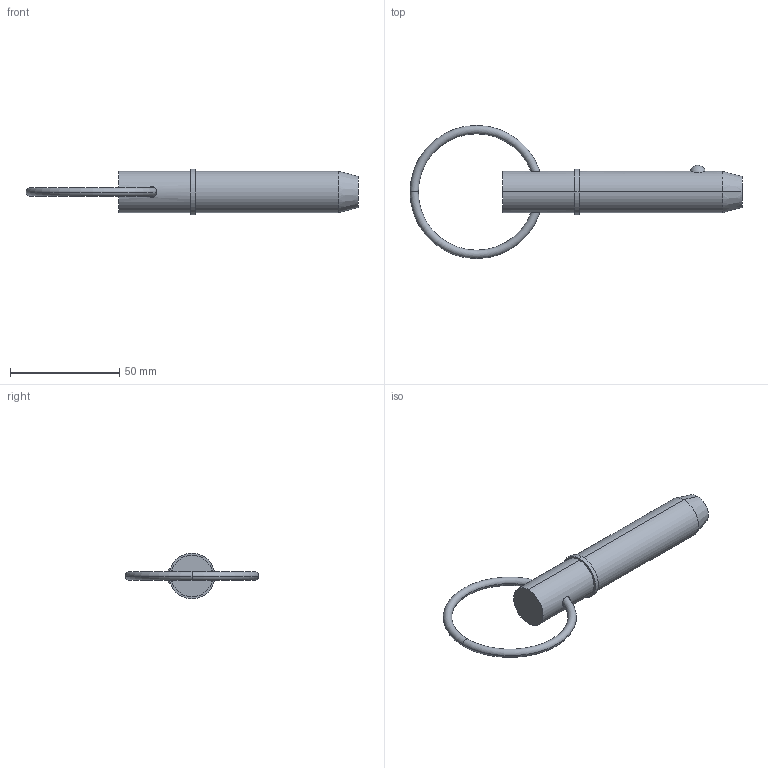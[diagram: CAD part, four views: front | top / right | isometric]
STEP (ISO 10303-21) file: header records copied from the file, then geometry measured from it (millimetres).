
FILE_DESCRIPTION (( 'STEP AP203' ), '1' );
FILE_NAME ('33014.W7520.step', '2024-11-04T08:35:18', ( '' ), ( '' ), 'SwSTEP 2.0', 'SolidWorks 2019', '' );
FILE_SCHEMA (( 'CONFIG_CONTROL_DESIGN' ));
Length unit declared in the file: millimetre
Products named in the file (3): 33014.W7520; Part1_33014.W7520; Part2_33014.W7520
Assembly tree (2 placements, depth 2):
  33014.W7520
    Part1_33014.W7520
    Part2_33014.W7520
Bounding box: 152 x 60.96 x 20.95 mm (x, y, z)
Volume: 32525.2 mm3; surface area: 9506.8 mm2
Topology: 2 solids, 2 shells, 22 faces, 43 edges, 26 vertices
Faces by surface type: torus 8, cylinder 6, plane 4, sphere 2, cone 2
Entity records: 1053 total; most frequent: CARTESIAN_POINT 276, DIRECTION 120, ORIENTED_EDGE 86, AXIS2_PLACEMENT_3D 56, EDGE_CURVE 43, CIRCLE 29, EDGE_LOOP 27, VERTEX_POINT 26
